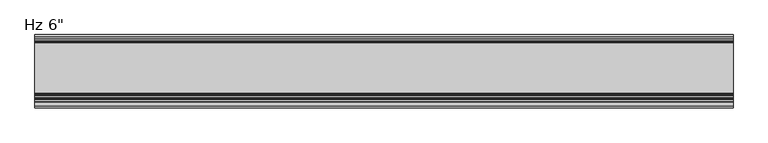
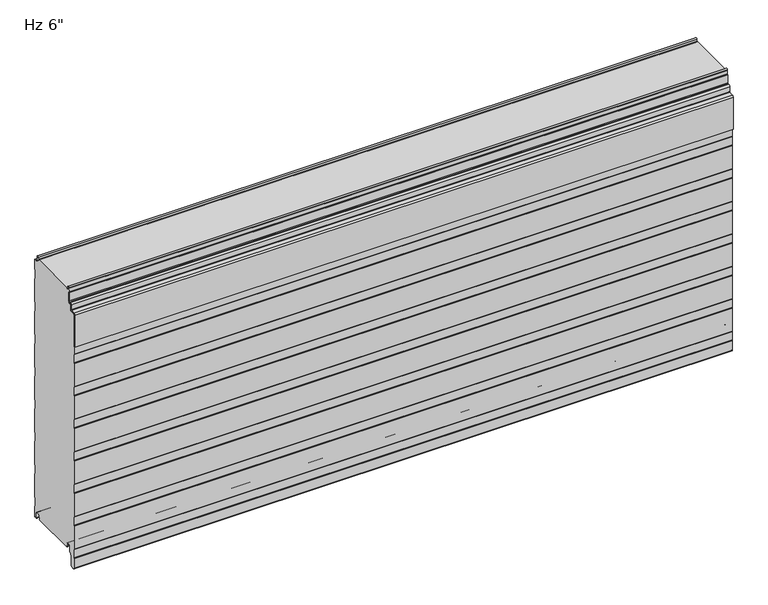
"""IFC4 building model written with IfcOpenShell, lengths in millimetres: plate geometry."""

from ifc_helpers import new_model, si_unit, point, frame, frame_2d, origin, place, context, project, spatial, polyline, circle_curve, trimmed, segment, composite_curve, outline, extrude, source, transform, mapped, element, save
from ifc_brep_helpers import plane_surface, cylinder_surface, revolved_surface, advanced_brep


def plate_2a957977(model_context):
    return source(origin(), model_context, "Body", "SolidModel", [
        advanced_brep(
        [(730.0, -131.3008679, 583.4464086), (730.0, -131.3008679, 602.1916086), (730.0, -132.8248679, 602.1916086), (730.0, -132.8248679, 583.4464086), (730.0, -134.3488679, 581.9224086), (730.0, -137.4476679, 581.9224086), (730.0, -140.9020679, 578.4680086), (730.0, -140.9020679, 567.2554512), (730.0, -141.5976552, 566.4963509), (730.0, -151.1416507, 565.3015233), (730.0, -153.924, 562.2651218), (730.0, -153.9360323, 486.6978086), (730.0, -152.4, 486.6978086), (730.0, -152.4, 562.2651218), (730.0, -151.0088254, 563.7833225), (730.0, -141.4648299, 564.9781501), (730.0, -139.3780679, 567.2554512), (730.0, -139.3780679, 578.4680086), (730.0, -137.4476679, 580.3984086), (730.0, -134.3488679, 580.3984086), (-730.0, -131.3008679, 583.4464086), (-730.0, -134.3488679, 580.3984086), (-730.0, -137.4476679, 580.3984086), (-730.0, -139.3780679, 578.4680086), (-730.0, -139.3780679, 567.2554512), (-730.0, -141.4648299, 564.9781501), (-730.0, -151.0088254, 563.7833225), (-730.0, -152.4, 562.2651218), (-730.0, -152.4, 486.6978086), (-730.0, -153.9360323, 486.6978086), (-730.0, -153.9360323, 562.2651218), (-730.0, -151.1416507, 565.3015233), (-730.0, -141.5976552, 566.4963509), (-730.0, -140.9020679, 567.2554512), (-730.0, -140.9020679, 578.4680086), (-730.0, -137.4476679, 581.9224086), (-730.0, -134.3488679, 581.9224086), (-730.0, -132.8248679, 583.4464086), (-730.0, -132.8248679, 602.1916086), (-730.0, -131.3008679, 602.1916086)],
        [
            (0, 1),
            (1, 2),
            (2, 3),
            (3, 4, circle_curve(frame((730.0, -134.3488679, 583.4464086), z_axis=(-1.0, 0.0, 0.0), x_axis=(0.0, 1.0, 0.0)), 1.524)),
            (4, 5),
            (5, 6, circle_curve(frame((730.0, -137.4476679, 578.4680086), z_axis=(1.0, 0.0, 0.0), x_axis=(0.0, 1.0, 0.0)), 3.4544)),
            (6, 7),
            (7, 8, circle_curve(frame((730.0, -141.6640679, 567.2554512), z_axis=(-1.0, 0.0, 0.0), x_axis=(0.0, 1.0, 0.0)), 0.762)),
            (8, 9),
            (9, 10, circle_curve(frame((730.0, -150.876, 562.2651218), z_axis=(1.0, 0.0, 0.0), x_axis=(0.0, 1.0, 0.0)), 3.048)),
            (10, 11),
            (11, 12),
            (12, 13),
            (13, 14, circle_curve(frame((730.0, -150.876, 562.2651218), z_axis=(-1.0, 0.0, 0.0), x_axis=(0.0, 1.0, 0.0)), 1.524)),
            (14, 15),
            (15, 16, circle_curve(frame((730.0, -141.6640679, 567.2554512), z_axis=(1.0, 0.0, 0.0), x_axis=(0.0, 1.0, 0.0)), 2.286)),
            (16, 17),
            (17, 18, circle_curve(frame((730.0, -137.4476679, 578.4680086), z_axis=(-1.0, 0.0, 0.0), x_axis=(0.0, 1.0, 0.0)), 1.9304)),
            (18, 19),
            (19, 0, circle_curve(frame((730.0, -134.3488679, 583.4464086), z_axis=(1.0, 0.0, 0.0), x_axis=(0.0, 1.0, 0.0)), 3.048)),
            (20, 21, circle_curve(frame((-730.0, -134.3488679, 583.4464086), z_axis=(-1.0, 0.0, 0.0), x_axis=(0.0, 1.0, 0.0)), 3.048)),
            (21, 22),
            (22, 23, circle_curve(frame((-730.0, -137.4476679, 578.4680086), z_axis=(1.0, 0.0, 0.0), x_axis=(0.0, 1.0, 0.0)), 1.9304)),
            (23, 24),
            (24, 25, circle_curve(frame((-730.0, -141.6640679, 567.2554512), z_axis=(-1.0, 0.0, 0.0), x_axis=(0.0, 1.0, 0.0)), 2.286)),
            (25, 26),
            (26, 27, circle_curve(frame((-730.0, -150.876, 562.2651218), z_axis=(1.0, 0.0, 0.0), x_axis=(0.0, 1.0, 0.0)), 1.524)),
            (27, 28),
            (28, 29),
            (29, 30),
            (30, 31, circle_curve(frame((-730.0, -150.876, 562.2651218), z_axis=(-1.0, 0.0, 0.0), x_axis=(0.0, 1.0, 0.0)), 3.048)),
            (31, 32),
            (32, 33, circle_curve(frame((-730.0, -141.6640679, 567.2554512), z_axis=(1.0, 0.0, 0.0), x_axis=(0.0, 1.0, 0.0)), 0.762)),
            (33, 34),
            (34, 35, circle_curve(frame((-730.0, -137.4476679, 578.4680086), z_axis=(-1.0, 0.0, 0.0), x_axis=(0.0, 1.0, 0.0)), 3.4544)),
            (35, 36),
            (36, 37, circle_curve(frame((-730.0, -134.3488679, 583.4464086), z_axis=(1.0, 0.0, 0.0), x_axis=(0.0, 1.0, 0.0)), 1.524)),
            (37, 38),
            (38, 39),
            (39, 20),
            (2, 38),
            (37, 3),
            (15, 25),
            (24, 16),
            (7, 33),
            (32, 8),
            (5, 35),
            (34, 6),
            (1, 39),
            (36, 4),
            (9, 31),
            (30, 10),
            (13, 27),
            (26, 14),
            (0, 20),
            (12, 28),
            (29, 11),
            (23, 17),
            (18, 22),
            (21, 19),
        ],
        [
            plane_surface(frame((730.0, -152.4, 602.1916086), z_axis=(1.0, 0.0, 0.0), x_axis=(0.0, 0.0, -1.0))),
            plane_surface(frame((-730.0, -152.4, 602.1916086), z_axis=(-1.0, 0.0, 0.0), x_axis=(0.0, 0.0, -1.0))),
            plane_surface(frame((730.0, -132.8248679, 583.4464086), z_axis=(0.0, -1.0, 0.0), x_axis=(-1.0, 0.0, 0.0))),
            cylinder_surface(frame((730.0, -141.6640679, 567.2554512), z_axis=(1.0, 0.0, 0.0), x_axis=(0.0, 1.0, 0.0)), 2.286),
            revolved_surface(polyline([(-730.0, -140.9020679, 567.2554512), (730.0, -140.9020679, 567.2554512)]), (730.0, -141.6640679, 567.2554512), (-1.0, 0.0, 0.0)),
            cylinder_surface(frame((730.0, -137.4476679, 578.4680086), z_axis=(1.0, 0.0, 0.0), x_axis=(0.0, 1.0, 0.0)), 3.4544),
            plane_surface(frame((730.0, -132.8248679, 602.1916086), z_axis=(0.0, 0.0, 1.0), x_axis=(-1.0, 0.0, 0.0))),
            revolved_surface(polyline([(-730.0, -132.8248679, 583.4464086), (730.0, -132.8248679, 583.4464086)]), (730.0, -134.3488679, 583.4464086), (-1.0, 0.0, 0.0)),
            cylinder_surface(frame((730.0, -150.876, 562.2651218), z_axis=(1.0, 0.0, 0.0), x_axis=(0.0, 1.0, 0.0)), 3.048),
            revolved_surface(polyline([(-730.0, -149.352, 562.2651218), (730.0, -149.352, 562.2651218)]), (730.0, -150.876, 562.2651218), (-1.0, 0.0, 0.0)),
            plane_surface(frame((730.0, -131.3008679, 602.1916086), z_axis=(0.0, 1.0, 0.0), x_axis=(-1.0, 0.0, 0.0))),
            plane_surface(frame((730.0, -141.4648299, 564.9781501), z_axis=(0.0, 0.12422187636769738, -0.9922544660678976), x_axis=(-1.0, 0.0, 0.0))),
            plane_surface(frame((730.0, -152.4, 562.2651218), z_axis=(0.0, 1.0, 0.0), x_axis=(-1.0, 0.0, 0.0))),
            plane_surface(frame((730.0, -151.1416507, 565.3015233), z_axis=(0.0, -0.12422187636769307, 0.9922544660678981), x_axis=(-1.0, 0.0, 0.0))),
            plane_surface(frame((730.0, -137.4476679, 581.9224086), z_axis=(0.0, 0.0, 1.0), x_axis=(-1.0, 0.0, 0.0))),
            plane_surface(frame((730.0, -153.9360323, 486.6978086), z_axis=(0.0, -1.0, 0.0), x_axis=(-1.0, 0.0, 0.0))),
            plane_surface(frame((730.0, -152.4, 486.6978086), z_axis=(0.0, 0.0, -1.0), x_axis=(-1.0, 0.0, 0.0))),
            plane_surface(frame((730.0, -139.3780679, 578.4680086), z_axis=(0.0, 1.0, 0.0), x_axis=(-1.0, 0.0, 0.0))),
            plane_surface(frame((730.0, -134.3488679, 580.3984086), z_axis=(0.0, 0.0, -1.0), x_axis=(-1.0, 0.0, 0.0))),
            plane_surface(frame((730.0, -140.9020679, 567.2554512), z_axis=(0.0, -1.0, 0.0), x_axis=(-1.0, 0.0, 0.0))),
            revolved_surface(polyline([(-730.0, -135.5172679, 578.4680086), (730.0, -135.5172679, 578.4680086)]), (730.0, -137.4476679, 578.4680086), (-1.0, 0.0, 0.0)),
            cylinder_surface(frame((730.0, -134.3488679, 583.4464086), z_axis=(1.0, 0.0, 0.0), x_axis=(0.0, 1.0, 0.0)), 3.048),
        ],
        [
            (0, [[1, 2, 3, 4, 5, 6, 7, 8, 9, 10, 11, 12, 13, 14, 15, 16, 17, 18, 19, 20]]),
            (1, [[21, 22, 23, 24, 25, 26, 27, 28, 29, 30, 31, 32, 33, 34, 35, 36, 37, 38, 39, 40]]),
            (2, [[41, -38, 42, -3]]),
            (3, [[43, -25, 44, -16]]),
            (4, [[45, -33, 46, -8]]),
            (5, [[47, -35, 48, -6]]),
            (6, [[49, -39, -41, -2]]),
            (7, [[-42, -37, 50, -4]]),
            (8, [[51, -31, 52, -10]]),
            (9, [[53, -27, 54, -14]]),
            (10, [[55, -40, -49, -1]]),
            (11, [[-54, -26, -43, -15]]),
            (12, [[56, -28, -53, -13]]),
            (13, [[-46, -32, -51, -9]]),
            (14, [[-50, -36, -47, -5]]),
            (15, [[-52, -30, 57, -11]]),
            (16, [[-57, -29, -56, -12]]),
            (17, [[-44, -24, 58, -17]]),
            (18, [[59, -22, 60, -19]]),
            (19, [[-48, -34, -45, -7]]),
            (20, [[-58, -23, -59, -18]]),
            (21, [[-60, -21, -55, -20]]),
        ],
    ),
        extrude(outline(composite_curve([segment(trimmed(circle_curve(frame_2d((-124.106538, 2.2313092)), 1.1999976), [point((-124.0760161, 1.0316999))], [point((-122.9065413, 2.2328239))], True, "CARTESIAN"), True, "CONTINUOUS"), segment(polyline([(-122.9065413, 2.2328239), (-122.9065413, 5.9912173), (-124.3050202, 5.9912173), (-124.3050202, 8.6903283)]), True, "CONTINUOUS"), segment(trimmed(circle_curve(frame_2d((-127.6550155, 8.6903283)), 3.3499953), [point((-124.3050202, 8.6903283))], [point((-127.6550155, 12.0403236))], True, "CARTESIAN"), True, "CONTINUOUS"), segment(polyline([(-127.6550155, 12.0403236), (-132.0550067, 12.0403236)]), True, "CONTINUOUS"), segment(trimmed(circle_curve(frame_2d((-132.0550067, 8.6903283)), 3.3499953), [point((-132.0550067, 12.0403236))], [point((-135.405002, 8.6903283))], True, "CARTESIAN"), True, "CONTINUOUS"), segment(polyline([(-135.405002, 8.6903283), (-135.405002, -3.1205608)]), True, "CONTINUOUS"), segment(trimmed(circle_curve(frame_2d((-137.1049966, -3.1205608)), 1.6999946), [point((-135.405002, -3.1205608))], [point((-135.9029189, -4.3226385))], False, "CARTESIAN"), True, "CONTINUOUS"), segment(polyline([(-135.9029189, -4.3226385), (-141.40499, -9.8247096), (-141.40499, -31.9198392)]), True, "CONTINUOUS"), segment(trimmed(circle_curve(frame_2d((-144.1049826, -31.9198392)), 2.6999926), [point((-141.40499, -31.9198392))], [point((-143.623592, -34.5765709))], False, "CARTESIAN"), True, "CONTINUOUS"), segment(polyline([(-143.623592, -34.5765709), (-148.6054129, -35.0125699)]), True, "CONTINUOUS"), segment(trimmed(circle_curve(frame_2d((-148.8294985, -32.4521176)), 2.5702393), [point((-148.6054129, -35.0125699))], [point((-151.3997378, -32.4521176))], False, "CARTESIAN"), True, "CONTINUOUS"), segment(polyline([(-151.3997378, -32.4521176), (-151.3997378, -10.4790962), (-150.1997693, -9.2791277), (-150.1997693, 10.4402849), (-151.4, 11.6405156), (-151.4, 65.7206473), (-150.1997693, 66.920878), (-150.1997693, 86.6402905), (-151.4, 87.8405213), (-151.4, 141.920653), (-150.1997693, 143.1208837), (-150.1997693, 162.8402962), (-151.4, 164.0405269), (-151.4, 218.1206587), (-150.1997693, 219.3208894), (-150.1997693, 239.0403019), (-151.4, 240.2405326), (-151.4, 294.3206644), (-150.1997693, 295.5208951), (-150.1997693, 315.2403076), (-151.4, 316.4405383), (-151.4, 370.5206701), (-150.1997693, 371.7209008), (-150.1997693, 391.4403133), (-151.4, 392.640544), (-151.4, 446.7206758), (-150.1997693, 447.9209065), (-150.1997693, 467.640319), (-151.4, 468.8405497), (-151.4, 522.9206815), (-150.1997693, 524.1209122), (-150.1997693, 543.8403247), (-151.4051411, 545.0456965), (-151.4051411, 561.1156233)]), True, "CONTINUOUS"), segment(trimmed(circle_curve(frame_2d((-149.4461194, 561.1156233)), 1.9590216), [point((-151.4051411, 561.1156233))], [point((-149.6178029, 563.0671075))], False, "CARTESIAN"), True, "CONTINUOUS"), segment(polyline([(-149.6178029, 563.0671075), (-141.1590902, 563.821161)]), True, "CONTINUOUS"), segment(trimmed(circle_curve(frame_2d((-141.4231732, 566.8396267)), 3.0299959), [point((-141.1590902, 563.821161))], [point((-138.3957873, 566.9653654))], True, "CARTESIAN"), True, "CONTINUOUS"), segment(polyline([(-138.3957873, 566.9653654), (-138.3957873, 577.0583308)]), True, "CONTINUOUS"), segment(trimmed(circle_curve(frame_2d((-137.4443786, 577.0583308)), 0.9514087), [point((-138.3957873, 577.0583308))], [point((-137.4443786, 578.0097394))], False, "CARTESIAN"), True, "CONTINUOUS"), segment(polyline([(-137.4443786, 578.0097394), (-134.3007233, 578.0097394)]), True, "CONTINUOUS"), segment(trimmed(circle_curve(frame_2d((-134.3007233, 582.0091924)), 3.9994529), [point((-134.3007233, 578.0097394))], [point((-130.3012703, 582.0091924))], True, "CARTESIAN"), True, "CONTINUOUS"), segment(polyline([(-130.3012703, 582.0091924), (-130.3012703, 603.1895515), (-132.2821181, 604.3334028), (-131.9268578, 613.306811)]), True, "CONTINUOUS"), segment(trimmed(circle_curve(frame_2d((-129.8266291, 613.2236622)), 2.1018739), [point((-131.9268578, 613.306811))], [point((-127.7262802, 613.3037148))], False, "CARTESIAN"), True, "CONTINUOUS"), segment(polyline([(-127.7262802, 613.3037148), (-127.4818653, 609.2977997)]), True, "CONTINUOUS"), segment(trimmed(circle_curve(frame_2d((-125.6434917, 609.4099653)), 1.8417922), [point((-127.4818653, 609.2977997))], [point((-125.6870527, 607.5686884))], True, "CARTESIAN"), True, "CONTINUOUS"), segment(polyline([(-125.6870527, 607.5686884), (-122.9025061, 607.5686884), (-122.9025061, 608.5686884), (-124.4900061, 608.5686884), (-123.4586945, 609.6), (-18.6184525, 609.6), (-17.5871409, 608.5686884), (-19.0015288, 608.5686884), (-19.0015288, 607.5686884), (-16.6743462, 607.5686884)]), True, "CONTINUOUS"), segment(trimmed(circle_curve(frame_2d((-16.6743462, 609.3186869)), 1.7499985), [point((-16.6743462, 607.5686884))], [point((-14.9256429, 609.2513685))], True, "CARTESIAN"), True, "CONTINUOUS"), segment(polyline([(-14.9256429, 609.2513685), (-14.7059822, 613.3921924)]), True, "CONTINUOUS"), segment(trimmed(circle_curve(frame_2d((-12.5552871, 613.2781032)), 2.153719), [point((-14.7059822, 613.3921924))], [point((-10.4046442, 613.3931719))], False, "CARTESIAN"), True, "CONTINUOUS"), segment(polyline([(-10.4046442, 613.3931719), (-9.9974365, 604.9016499)]), True, "CONTINUOUS"), segment(trimmed(circle_curve(frame_2d((-5.9867338, 605.0939817)), 4.0153117), [point((-9.9974365, 604.9016499))], [point((-6.0026007, 601.0787013))], True, "CARTESIAN"), True, "CONTINUOUS"), segment(polyline([(-6.0026007, 601.0787013), (-1.0, 601.0787013), (-1.0, 576.5794011), (-2.2002307, 575.1937682), (-2.2002307, 555.8186019), (-1.0, 554.4329689), (-1.0, 500.3795535), (-2.2002307, 498.9939206), (-2.2002307, 479.6187543), (-1.0, 478.2331213), (-1.0, 424.1797059), (-2.2002307, 422.794073), (-2.2002307, 403.4189067), (-1.0, 402.0332737), (-1.0, 347.9798583), (-2.2002307, 346.5942254), (-2.2002307, 327.2190591), (-1.0, 325.8334261), (-1.0, 271.7800107), (-2.2002307, 270.3943778), (-2.2002307, 251.0192115), (-1.0, 249.6335785), (-1.0, 195.5801631), (-2.2002307, 194.1945302), (-2.2002307, 174.8193639), (-1.0, 173.4337309), (-1.0, 119.3803155), (-2.2002307, 117.9946826), (-2.2002307, 98.6195163), (-1.0, 97.2338833), (-1.0, 43.1804679), (-2.2002307, 41.794835), (-2.2002307, 22.4196687), (-0.9999916, 21.034026), (-0.9999916, -3.4662506), (-5.2315389, -3.4662506)]), True, "CONTINUOUS"), segment(trimmed(circle_curve(frame_2d((-5.2315389, -1.6962564)), 1.7699942), [point((-5.2315389, -3.4662506))], [point((-7.0015331, -1.6962564))], False, "CARTESIAN"), True, "CONTINUOUS"), segment(polyline([(-7.0015331, -1.6962564), (-7.0015331, 8.7237222)]), True, "CONTINUOUS"), segment(trimmed(circle_curve(frame_2d((-10.301529, 8.7237222)), 3.2999959), [point((-7.0015331, 8.7237222))], [point((-10.301529, 12.023718))], True, "CARTESIAN"), True, "CONTINUOUS"), segment(polyline([(-10.301529, 12.023718), (-14.7015202, 12.023718)]), True, "CONTINUOUS"), segment(trimmed(circle_curve(frame_2d((-14.7015202, 8.7237223)), 3.2999957), [point((-14.7015202, 12.023718))], [point((-18.0015159, 8.7237223))], True, "CARTESIAN"), True, "CONTINUOUS"), segment(polyline([(-18.0015159, 8.7237223), (-18.0015159, 6.0315125), (-19.0015105, 6.0315125), (-19.0015105, 2.0313089)]), True, "CONTINUOUS"), segment(trimmed(circle_curve(frame_2d((-18.0015133, 2.0313089)), 0.9999972), [point((-19.0015105, 2.0313089))], [point((-18.0015192, 1.0313117))], True, "CARTESIAN"), True, "CONTINUOUS"), segment(polyline([(-18.0015192, 1.0313117), (-19.0328308, 0.0), (-123.0443162, 0.0), (-124.0760161, 1.0316999)]), True, "CONTINUOUS")], self_intersect=False)), frame((-730.0, 0.0, 0.0), z_axis=(1.0, 0.0, 0.0), x_axis=(0.0, 1.0, 0.0)), (0.0, 0.0, 1.0), 1460.0),
    ])


if __name__ == "__main__":
    model = new_model("IFC4")
    model_context = context("Model", 3, world=origin())
    ifc_project = project(units=[si_unit("LENGTHUNIT", "METRE", prefix="MILLI")], contexts=[model_context])
    site = spatial("IfcSite", under=ifc_project)
    building = spatial("IfcBuilding", under=site)
    placement = place(None, origin())
    plate_shape = plate_2a957977(model_context)
    element("IfcPlate", 1, ObjectType="KIP-24-Karrier-KP-R19-CP-Hz-SL3-8in_SL : Hz 6\"", at=placement, inside=building, context=model_context, shape_type="MappedRepresentation", body=[
        mapped(plate_shape, transform((0.0, 0.0, 0.0), x_axis=(1.0, 0.0, 0.0), y_axis=(0.0, 1.0, 0.0), z_axis=(0.0, 0.0, 1.0))),
    ])
    save(model, "model.ifc")
